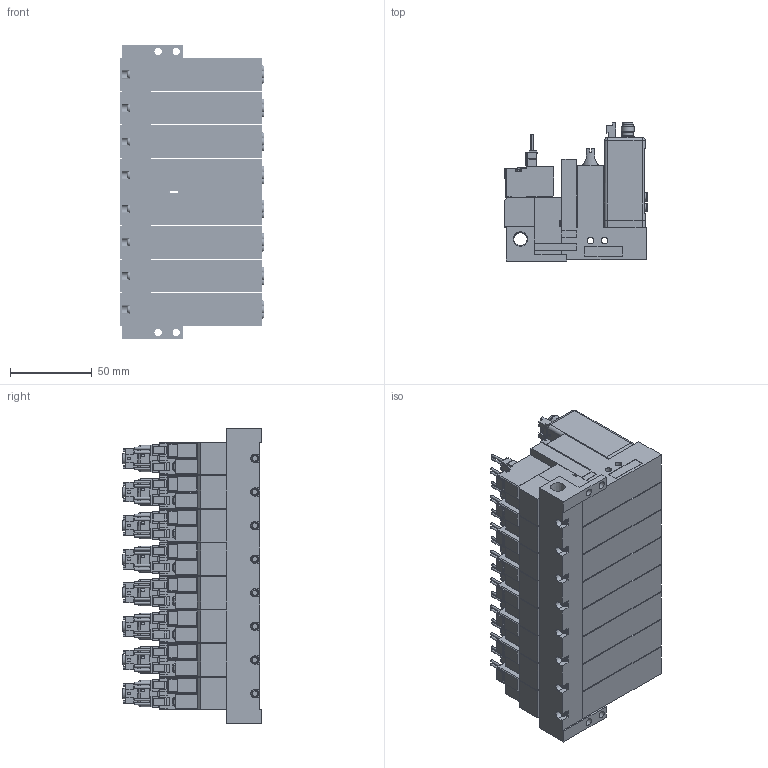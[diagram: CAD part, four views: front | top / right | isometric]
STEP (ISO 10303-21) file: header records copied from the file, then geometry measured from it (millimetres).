
FILE_DESCRIPTION(('STEP AP203'),'1');
FILE_NAME('22_22PL5ALR808.stp','2025-06-12T05:17:17',(' '),(' '),'Spatial InterOp 3D',' ',' ');
FILE_SCHEMA(('CONFIG_CONTROL_DESIGN'));
Length unit declared in the file: millimetre
Products named in the file (12): BMC22M※※※※22_22PL5ALR808; Solenoid valve A; Unit L; Base MR80R; MVS-202
Assembly tree (25 placements, depth 2):
  BMC22M※※※※22_22PL5ALR808
    Solenoid valve A  x8
    Unit L  x8
    Base MR80R
    MVS-202
    MVS-202
    MVS-202
    MVS-202
    MVS-202
    MVS-202
    MVS-202
    MVS-202
Bounding box: 87.5 x 84.6 x 179.5 mm (x, y, z)
Volume: 775584 mm3; surface area: 233430.3 mm2
Topology: 25 solids, 57 shells, 6165 faces, 16051 edges, 10480 vertices
Faces by surface type: plane 5182, cylinder 773, cone 130, torus 48, sphere 32
Full cylindrical faces by diameter (mm): 1 x32, 1.4 x32, 1.5 x8, 2.5 x8, 3 x32, 3.5 x32, 3.6 x8, 4 x16, 4.134 x8, 4.5 x36, 4.8 x24, 5 x16, 5.2 x8, 5.8 x16, 6 x16, 6.5 x24, 6.6 x8, 7 x8, 7.2 x8, 7.9 x8, 8 x16, 8.279 x1
Entity records: 114075 total; most frequent: CARTESIAN_POINT 20518, ORIENTED_EDGE 18654, DIRECTION 18443, EDGE_CURVE 9327, LINE 7855, VECTOR 7855, VERTEX_POINT 6309, AXIS2_PLACEMENT_3D 5294
